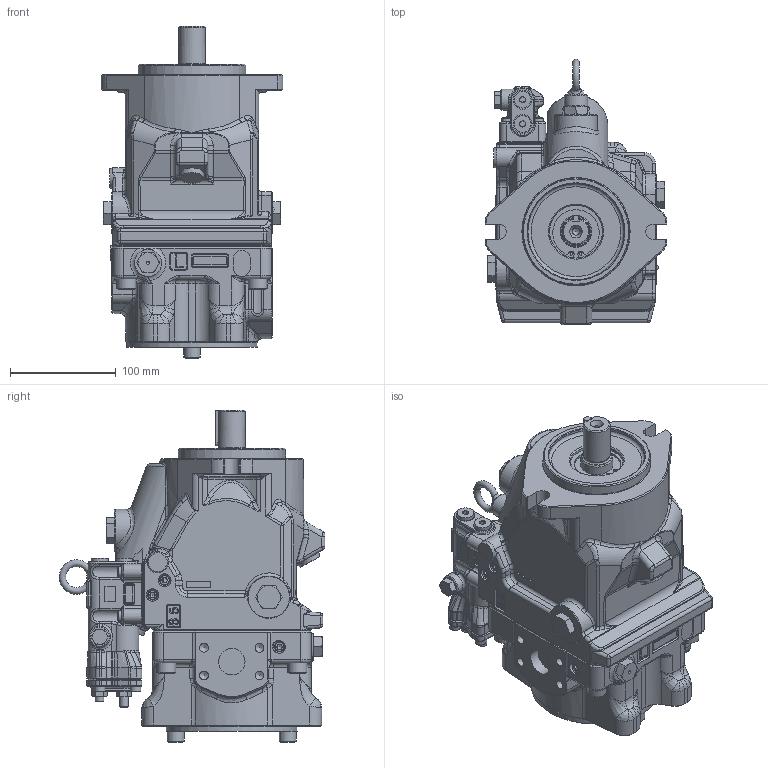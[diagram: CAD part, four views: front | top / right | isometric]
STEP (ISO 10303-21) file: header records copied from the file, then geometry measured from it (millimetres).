
FILE_DESCRIPTION(/* description */ (''),/* implementation_level */ '2;1');
FILE_NAME(/* name */ 'K3VLS65-1NRK2H-L1A.stp',/* time_stamp */ '2025-09-25T15:44:17+01:00',/* author */ ('jhatcher'),/* organization */ (''),/* preprocessor_version */ 'ST-DEVELOPER v20',/* originating_system */ 'Autodesk Inventor 2024',/* authorisation */ '');
FILE_SCHEMA (('AUTOMOTIVE_DESIGN { 1 0 10303 214 3 1 1 }'));
Products named in the file (1): K3VLS65-1NRK2H-L1A
Bounding box: 172 x 251.29 x 314 mm (x, y, z)
Volume: 5213393.2 mm3; surface area: 258849.5 mm2
Topology: 1 solids, 1 shells, 2675 faces, 6591 edges, 3979 vertices
Faces by surface type: plane 1205, cylinder 528, bspline 512, cone 290, torus 123, sphere 17
Full cylindrical faces by diameter (mm): 2.5 x2, 4 x2, 6.647 x1, 8 x2, 8.376 x8, 9.4 x3, 10 x8, 10.106 x4, 11 x8, 12 x3, 16 x4, 18 x6, 20 x5, 22 x1, 25 x1, 25.4 x1, 30 x1, 45 x1, 50 x2, 53 x1, 91 x1, 101.6 x1, 124 x1
Entity records: 98522 total; most frequent: CARTESIAN_POINT 36607, ORIENTED_EDGE 12990, DIRECTION 11589, EDGE_CURVE 6495, AXIS2_PLACEMENT_3D 4113, VERTEX_POINT 3979, LINE 3363, VECTOR 3363
